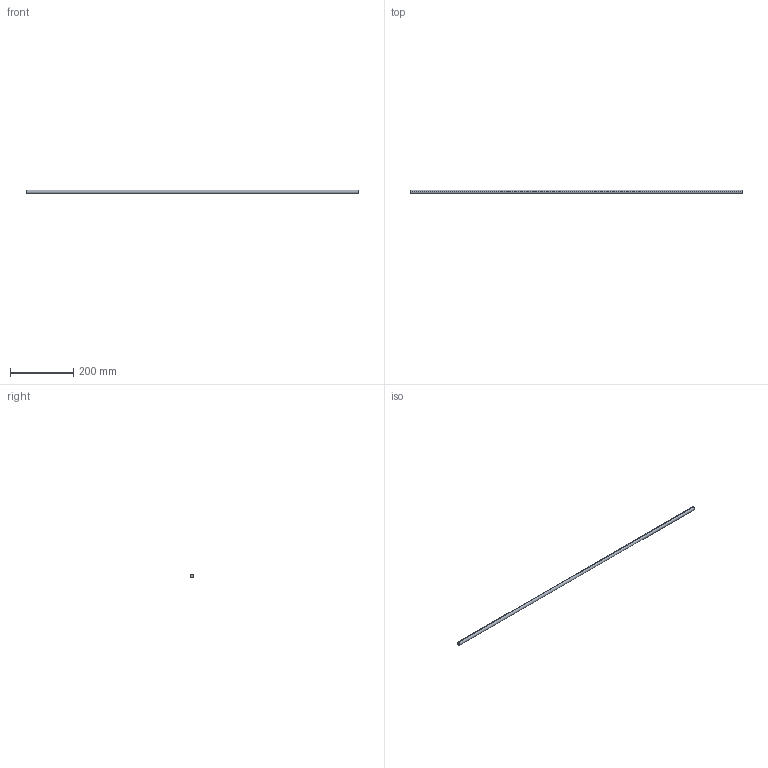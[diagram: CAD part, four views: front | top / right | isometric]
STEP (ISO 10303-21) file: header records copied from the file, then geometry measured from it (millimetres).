
FILE_DESCRIPTION (( 'STEP AP214' ), '1' );
FILE_NAME ('Querreling_2S-Rel_7102_KAB-1150.step', '2010-09-22T15:06:00', ( 'grass' ), ( '' ), 'SwSTEP 2.0', 'SolidWorks 2010', '' );
FILE_SCHEMA (( 'AUTOMOTIVE_DESIGN' ));
Length unit declared in the file: millimetre
Products named in the file (1): Querreling_2S-Rel_7102_KAB-1150
Bounding box: 1049 x 11 x 11 mm (x, y, z)
Volume: 99689.8 mm3; surface area: 36440.9 mm2
Topology: 1 solids, 1 shells, 4 faces, 6 edges, 4 vertices
Faces by surface type: cylinder 2, plane 2
Entity records: 128 total; most frequent: DIRECTION 20, CARTESIAN_POINT 15, ORIENTED_EDGE 12, AXIS2_PLACEMENT_3D 9, EDGE_CURVE 6, EDGE_LOOP 4, FACE_OUTER_BOUND 4, CIRCLE 4
